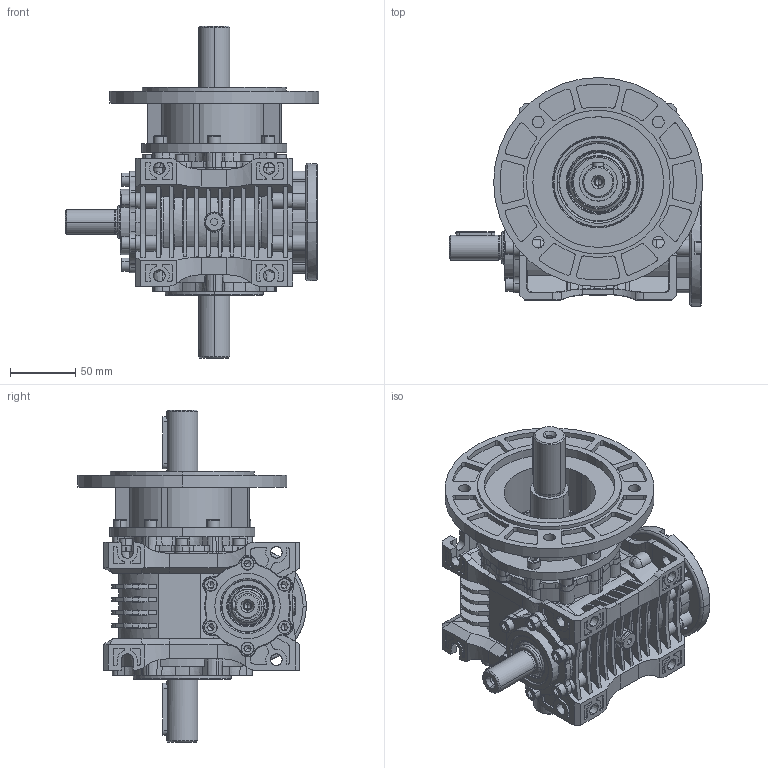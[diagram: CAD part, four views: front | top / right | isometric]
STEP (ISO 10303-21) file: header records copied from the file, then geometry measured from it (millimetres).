
FILE_DESCRIPTION (( 'STEP AP203' ), '1' );
FILE_NAME ('MR-50_90-11-WBS-K160_2-WD_2-3D.STEP', '2024-03-04T09:28:06', ( '' ), ( '' ), 'SwSTEP 2.0', 'SolidWorks 2022', '' );
FILE_SCHEMA (( 'CONFIG_CONTROL_DESIGN' ));
Products named in the file (1): MR-50_90-11-WBS-K160_2-WD_2-3D
Bounding box: 194 x 175 x 254 mm (x, y, z)
Volume: 1551138.9 mm3; surface area: 302087.4 mm2
Topology: 1 solids, 66 shells, 3468 faces, 9001 edges, 5662 vertices
Faces by surface type: plane 1291, cone 1018, cylinder 862, torus 200, bspline 97
Entity records: 124822 total; most frequent: CARTESIAN_POINT 40435, DIRECTION 18084, ORIENTED_EDGE 17722, EDGE_CURVE 8861, AXIS2_PLACEMENT_3D 6931, VERTEX_POINT 5662, LINE 4222, VECTOR 4222
